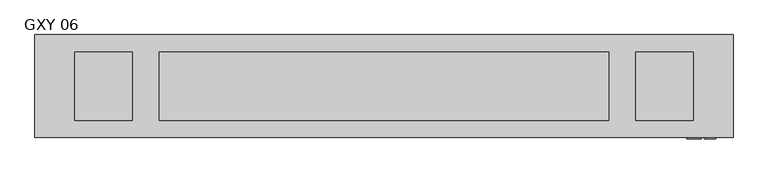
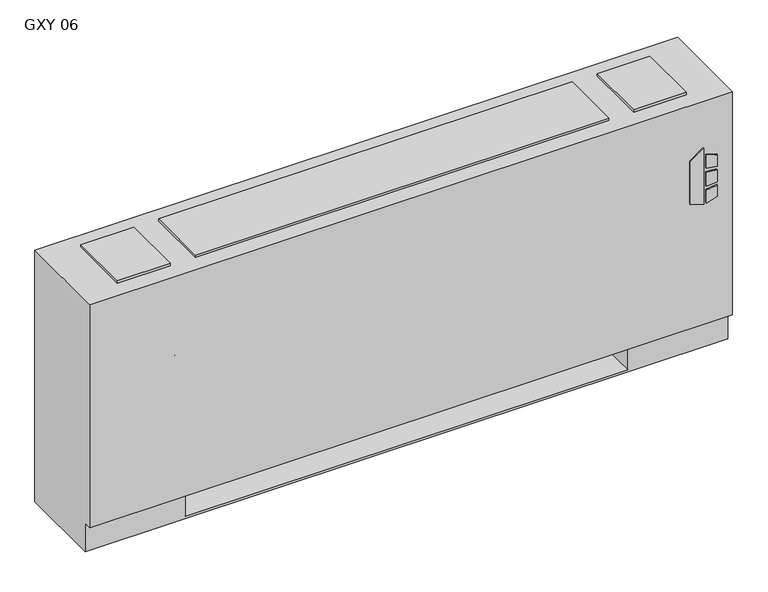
"""IFC4 building model written with IfcOpenShell, lengths in millimetres: proxy geometry, Vertical_Fan_Coil_Unit_-_GXY_-_IEC_-_2-Pipe_TS-FR_LH_2022 : GXY 06."""

from ifc_helpers import new_model, si_unit, point, frame, frame_2d, origin, place, context, project, spatial, polyline, circle_curve, trimmed, segment, composite_curve, outline, extrude, source, transform, mapped, element, save
from ifc_brep_helpers import plane_surface, revolved_surface, advanced_brep


def gxy_06_0ddcebba(model_context):
    return source(origin(), model_context, "Body", "SolidModel", [
        extrude(outline(polyline([(391.6086829, 823.9868862), (381.6606126, 856.1602728), (523.831537, 856.1602728), (500.8095309, 823.9868862), (391.6086829, 823.9868862)])), frame((0.0, 12.7, 0.0), z_axis=(0.0, 1.0, 0.0), x_axis=(0.0, 0.0, 1.0)), (0.0, 0.0, 1.0), 3.175),
        extrude(outline(polyline([(470.6079683, 862.9186058), (467.4055757, 889.0), (496.6344168, 889.0), (504.6988318, 862.9186058), (470.6079683, 862.9186058)])), frame((0.0, 12.7, 0.0), z_axis=(0.0, 1.0, 0.0), x_axis=(0.0, 0.0, 1.0)), (0.0, 0.0, 1.0), 3.175),
        extrude(outline(polyline([(418.7444414, 889.0), (415.0789404, 862.9186058), (381.6606126, 862.9186058), (390.2948498, 889.0), (418.7444414, 889.0)])), frame((0.0, 12.7, 0.0), z_axis=(0.0, 1.0, 0.0), x_axis=(0.0, 0.0, 1.0)), (0.0, 0.0, 1.0), 3.175),
        extrude(outline(polyline([(458.0596028, 889.0), (460.3414292, 862.9186058), (424.4038806, 862.9186058), (427.1451456, 889.0), (458.0596028, 889.0)])), frame((0.0, 12.7, 0.0), z_axis=(0.0, 1.0, 0.0), x_axis=(0.0, 0.0, 1.0)), (0.0, 0.0, 1.0), 3.175),
        extrude(outline(polyline([(685.8, 81.534), (685.8, 223.266), (806.45, 223.266), (806.45, 81.534), (685.8, 81.534)])), frame((0.0, 0.0, 327.025), z_axis=(0.0, 0.0, 1.0), x_axis=(1.0, 0.0, 0.0)), (0.0, 0.0, 1.0), 260.35),
        extrude(outline(polyline([(-406.4, 206.375), (-406.4, 53.975), (-533.4, 53.975), (-533.4, 206.375), (-406.4, 206.375)])), frame((0.0, 0.0, 641.35), z_axis=(0.0, 0.0, 1.0), x_axis=(1.0, 0.0, 0.0)), (0.0, 0.0, 1.0), 6.35),
        extrude(outline(polyline([(838.2, 206.375), (838.2, 53.975), (711.2, 53.975), (711.2, 206.375), (838.2, 206.375)])), frame((0.0, 0.0, 641.35), z_axis=(0.0, 0.0, 1.0), x_axis=(1.0, 0.0, 0.0)), (0.0, 0.0, 1.0), 6.35),
        extrude(outline(composite_curve([segment(trimmed(circle_curve(frame_2d((78.9432, 398.5514)), 7.9375), [point((78.9432, 406.4889))], [point((78.9432, 390.6139))], False, "CARTESIAN"), True, "CONTINUOUS"), segment(trimmed(circle_curve(frame_2d((78.9432, 398.5514)), 7.9375), [point((78.9432, 390.6139))], [point((78.9432, 406.4889))], False, "CARTESIAN"), True, "CONTINUOUS")], self_intersect=False)), frame((-431.8, 0.0, 0.0), z_axis=(1.0, 0.0, 0.0), x_axis=(0.0, 1.0, 0.0)), (0.0, 0.0, 1.0), 50.8),
        extrude(outline(composite_curve([segment(trimmed(circle_curve(frame_2d((155.9052, 537.3878)), 7.9375), [point((155.9052, 545.3253))], [point((155.9052, 529.4503))], False, "CARTESIAN"), True, "CONTINUOUS"), segment(trimmed(circle_curve(frame_2d((155.9052, 537.3878)), 7.9375), [point((155.9052, 529.4503))], [point((155.9052, 545.3253))], False, "CARTESIAN"), True, "CONTINUOUS")], self_intersect=False)), frame((-431.8, 0.0, 0.0), z_axis=(1.0, 0.0, 0.0), x_axis=(0.0, 1.0, 0.0)), (0.0, 0.0, 1.0), 50.8),
        advanced_brep(
        [(927.1, 244.475, 641.35), (-622.3, 244.475, 641.35), (-622.3, 15.875, 641.35), (927.1, 15.875, 641.35), (-622.3, 244.475, 0.0), (927.1, 244.475, 0.0), (927.1, 34.925, 0.0), (-622.3, 34.925, 0.0), (685.8, 244.475, 73.025), (914.4, 244.475, 73.025), (914.4, 244.475, 628.65), (685.8, 244.475, 628.65), (685.8, 244.475, 418.0400565), (714.375, 244.475, 418.0400565), (714.375, 244.475, 388.4099435), (685.8, 244.475, 388.4099435), (685.8, 244.475, 290.5125), (714.375, 244.475, 290.5125), (714.375, 244.475, 261.9375), (685.8, 244.475, 261.9375), (685.8, 244.475, 119.0625), (714.375, 244.475, 119.0625), (714.375, 244.475, 90.4875), (685.8, 244.475, 90.4875), (-381.0, 244.475, 628.65), (-609.6, 244.475, 628.65), (-609.6, 244.475, 73.025), (-381.0, 244.475, 73.025), (-381.0, 244.475, 90.4875), (-409.575, 244.475, 90.4875), (-409.575, 244.475, 119.0625), (-381.0, 244.475, 119.0625), (-381.0, 244.475, 261.9375), (-409.575, 244.475, 261.9375), (-409.575, 244.475, 290.5125), (-381.0, 244.475, 290.5125), (-381.0, 244.475, 388.4099435), (-409.575, 244.475, 388.4099435), (-409.575, 244.475, 418.0400565), (-381.0, 244.475, 418.0400565), (704.0626, 244.475, 104.775), (692.9374, 244.475, 104.775), (704.0626, 244.475, 403.225), (692.9374, 244.475, 403.225), (704.0626, 244.475, 276.225), (692.9374, 244.475, 276.225), (-388.1374, 244.475, 104.775), (-399.2626, 244.475, 104.775), (-388.1374, 244.475, 276.225), (-399.2626, 244.475, 276.225), (-388.1374, 244.475, 403.225), (-399.2626, 244.475, 403.225), (-622.3, 34.925, 73.025), (-622.3, 15.875, 73.025), (927.1, 15.875, 73.025), (927.1, 34.925, 73.025), (-381.0, 34.925, 73.025), (-381.0, 219.075, 73.025), (685.8, 219.075, 73.025), (685.8, 34.925, 73.025), (685.8, 34.925, 6.35), (-381.0, 34.925, 6.35), (685.8, 41.275, 628.65), (914.4, 41.275, 628.65), (914.4, 41.275, 73.025), (685.8, 41.275, 73.025), (-381.0, 41.275, 628.65), (-381.0, 41.275, 73.025), (-609.6, 41.275, 73.025), (-609.6, 41.275, 628.65), (685.8, 219.075, 73.025), (685.8, 238.125, 90.4875), (685.8, 238.125, 119.0625), (685.8, 238.125, 261.9375), (685.8, 238.125, 290.5125), (685.8, 238.125, 388.4099435), (685.8, 238.125, 418.0400565), (-381.0, 219.075, 73.025), (-381.0, 238.125, 418.0400565), (-381.0, 238.125, 388.4099435), (-381.0, 238.125, 290.5125), (-381.0, 238.125, 261.9375), (-381.0, 238.125, 119.0625), (-381.0, 238.125, 90.4875), (-381.0, 219.075, 6.35), (685.8, 219.075, 6.35), (714.375, 238.125, 90.4875), (714.375, 238.125, 119.0625), (692.9374, 238.125, 104.775), (704.0626, 238.125, 104.775), (714.375, 238.125, 261.9375), (714.375, 238.125, 290.5125), (692.9374, 238.125, 276.225), (704.0626, 238.125, 276.225), (714.375, 238.125, 388.4099435), (714.375, 238.125, 418.0400565), (692.9374, 238.125, 403.225), (704.0626, 238.125, 403.225), (-409.575, 238.125, 119.0625), (-409.575, 238.125, 90.4875), (-399.2626, 238.125, 104.775), (-388.1374, 238.125, 104.775), (-409.575, 238.125, 290.5125), (-409.575, 238.125, 261.9375), (-399.2626, 238.125, 276.225), (-388.1374, 238.125, 276.225), (-409.575, 238.125, 418.0400565), (-409.575, 238.125, 388.4099435), (-399.2626, 238.125, 403.225), (-388.1374, 238.125, 403.225)],
        [
            (0, 1),
            (1, 2),
            (2, 3),
            (3, 0),
            (4, 5),
            (5, 6),
            (6, 7),
            (7, 4),
            (0, 5),
            (4, 1),
            (8, 9),
            (9, 10),
            (10, 11),
            (11, 12),
            (12, 13),
            (13, 14),
            (14, 15),
            (15, 16),
            (16, 17),
            (17, 18),
            (18, 19),
            (19, 20),
            (20, 21),
            (21, 22),
            (22, 23),
            (23, 8),
            (24, 25),
            (25, 26),
            (26, 27),
            (27, 28),
            (28, 29),
            (29, 30),
            (30, 31),
            (31, 32),
            (32, 33),
            (33, 34),
            (34, 35),
            (35, 36),
            (36, 37),
            (37, 38),
            (38, 39),
            (39, 24),
            (40, 41, circle_curve(frame((698.5, 244.475, 104.775), z_axis=(0.0, -1.0, 0.0), x_axis=(-1.0, 0.0, 0.0)), 5.5626)),
            (41, 40, circle_curve(frame((698.5, 244.475, 104.775), z_axis=(0.0, -1.0, 0.0), x_axis=(-1.0, 0.0, 0.0)), 5.5626)),
            (42, 43, circle_curve(frame((698.5, 244.475, 403.225), z_axis=(0.0, -1.0, 0.0), x_axis=(-1.0, 0.0, 0.0)), 5.5626)),
            (43, 42, circle_curve(frame((698.5, 244.475, 403.225), z_axis=(0.0, -1.0, 0.0), x_axis=(-1.0, 0.0, 0.0)), 5.5626)),
            (44, 45, circle_curve(frame((698.5, 244.475, 276.225), z_axis=(0.0, -1.0, 0.0), x_axis=(-1.0, 0.0, 0.0)), 5.5626)),
            (45, 44, circle_curve(frame((698.5, 244.475, 276.225), z_axis=(0.0, -1.0, 0.0), x_axis=(-1.0, 0.0, 0.0)), 5.5626)),
            (46, 47, circle_curve(frame((-393.7, 244.475, 104.775), z_axis=(0.0, -1.0, 0.0), x_axis=(-1.0, 0.0, 0.0)), 5.5626)),
            (47, 46, circle_curve(frame((-393.7, 244.475, 104.775), z_axis=(0.0, -1.0, 0.0), x_axis=(-1.0, 0.0, 0.0)), 5.5626)),
            (48, 49, circle_curve(frame((-393.7, 244.475, 276.225), z_axis=(0.0, -1.0, 0.0), x_axis=(-1.0, 0.0, 0.0)), 5.5626)),
            (49, 48, circle_curve(frame((-393.7, 244.475, 276.225), z_axis=(0.0, -1.0, 0.0), x_axis=(-1.0, 0.0, 0.0)), 5.5626)),
            (50, 51, circle_curve(frame((-393.7, 244.475, 403.225), z_axis=(0.0, -1.0, 0.0), x_axis=(-1.0, 0.0, 0.0)), 5.5626)),
            (51, 50, circle_curve(frame((-393.7, 244.475, 403.225), z_axis=(0.0, -1.0, 0.0), x_axis=(-1.0, 0.0, 0.0)), 5.5626)),
            (7, 52),
            (52, 53),
            (53, 2),
            (53, 54),
            (54, 3),
            (54, 55),
            (55, 6),
            (52, 56),
            (56, 57),
            (57, 58),
            (58, 59),
            (59, 55),
            (59, 60),
            (60, 61),
            (61, 56),
            (62, 63),
            (63, 64),
            (64, 65),
            (65, 62),
            (66, 67),
            (67, 68),
            (68, 69),
            (69, 66),
            (65, 70),
            (70, 8),
            (23, 71),
            (71, 72),
            (72, 20),
            (19, 73),
            (73, 74),
            (74, 16),
            (15, 75),
            (75, 76),
            (76, 12),
            (11, 62),
            (64, 9),
            (63, 10),
            (69, 25),
            (24, 66),
            (68, 26),
            (67, 77),
            (77, 27),
            (39, 78),
            (78, 79),
            (79, 36),
            (35, 80),
            (80, 81),
            (81, 32),
            (31, 82),
            (82, 83),
            (83, 28),
            (57, 84),
            (84, 85),
            (85, 58),
            (85, 60),
            (84, 61),
            (71, 86),
            (86, 87),
            (87, 72),
            (88, 89, circle_curve(frame((698.5, 238.125, 104.775), z_axis=(0.0, 1.0, 0.0), x_axis=(-1.0, 0.0, 0.0)), 5.5626)),
            (89, 88, circle_curve(frame((698.5, 238.125, 104.775), z_axis=(0.0, 1.0, 0.0), x_axis=(-1.0, 0.0, 0.0)), 5.5626)),
            (73, 90),
            (90, 91),
            (91, 74),
            (92, 93, circle_curve(frame((698.5, 238.125, 276.225), z_axis=(0.0, 1.0, 0.0), x_axis=(-1.0, 0.0, 0.0)), 5.5626)),
            (93, 92, circle_curve(frame((698.5, 238.125, 276.225), z_axis=(0.0, 1.0, 0.0), x_axis=(-1.0, 0.0, 0.0)), 5.5626)),
            (75, 94),
            (94, 95),
            (95, 76),
            (96, 97, circle_curve(frame((698.5, 238.125, 403.225), z_axis=(0.0, 1.0, 0.0), x_axis=(-1.0, 0.0, 0.0)), 5.5626)),
            (97, 96, circle_curve(frame((698.5, 238.125, 403.225), z_axis=(0.0, 1.0, 0.0), x_axis=(-1.0, 0.0, 0.0)), 5.5626)),
            (98, 99),
            (99, 83),
            (82, 98),
            (100, 101, circle_curve(frame((-393.7, 238.125, 104.775), z_axis=(0.0, 1.0, 0.0), x_axis=(-1.0, 0.0, 0.0)), 5.5626)),
            (101, 100, circle_curve(frame((-393.7, 238.125, 104.775), z_axis=(0.0, 1.0, 0.0), x_axis=(-1.0, 0.0, 0.0)), 5.5626)),
            (102, 103),
            (103, 81),
            (80, 102),
            (104, 105, circle_curve(frame((-393.7, 238.125, 276.225), z_axis=(0.0, 1.0, 0.0), x_axis=(-1.0, 0.0, 0.0)), 5.5626)),
            (105, 104, circle_curve(frame((-393.7, 238.125, 276.225), z_axis=(0.0, 1.0, 0.0), x_axis=(-1.0, 0.0, 0.0)), 5.5626)),
            (106, 107),
            (107, 79),
            (78, 106),
            (108, 109, circle_curve(frame((-393.7, 238.125, 403.225), z_axis=(0.0, 1.0, 0.0), x_axis=(-1.0, 0.0, 0.0)), 5.5626)),
            (109, 108, circle_curve(frame((-393.7, 238.125, 403.225), z_axis=(0.0, 1.0, 0.0), x_axis=(-1.0, 0.0, 0.0)), 5.5626)),
            (87, 21),
            (86, 22),
            (91, 17),
            (90, 18),
            (95, 13),
            (94, 14),
            (30, 98),
            (99, 29),
            (34, 102),
            (103, 33),
            (38, 106),
            (107, 37),
            (88, 41),
            (40, 89),
            (96, 43),
            (42, 97),
            (92, 45),
            (44, 93),
            (100, 47),
            (46, 101),
            (104, 49),
            (48, 105),
            (108, 51),
            (50, 109),
        ],
        [
            plane_surface(frame((-622.3, 244.475, 641.35), z_axis=(0.0, 0.0, 1.0), x_axis=(-1.0, 0.0, 0.0))),
            plane_surface(frame((-622.3, 244.475, 0.0), z_axis=(0.0, 0.0, -1.0), x_axis=(1.0, 0.0, 0.0))),
            plane_surface(frame((927.1, 244.475, 641.35), z_axis=(0.0, 1.0, 0.0), x_axis=(0.0, 0.0, -1.0))),
            plane_surface(frame((-622.3, 244.475, 641.35), z_axis=(-1.0, 0.0, 0.0), x_axis=(0.0, 0.0, -1.0))),
            plane_surface(frame((-622.3, 15.875, 641.35), z_axis=(0.0, -1.0, 0.0), x_axis=(0.0, 0.0, -1.0))),
            plane_surface(frame((927.1, 15.875, 641.35), z_axis=(1.0, 0.0, 0.0), x_axis=(0.0, 0.0, -1.0))),
            plane_surface(frame((-622.3, 15.875, 73.025), z_axis=(0.0, 0.0, -1.0), x_axis=(1.0, 0.0, 0.0))),
            plane_surface(frame((-622.3, 34.925, 73.025), z_axis=(0.0, -1.0, 0.0), x_axis=(1.0, 0.0, 0.0))),
            plane_surface(frame((685.8, 41.275, 628.65), z_axis=(0.0, 1.0, 0.0), x_axis=(0.0, 0.0, -1.0))),
            plane_surface(frame((685.8, 41.275, 628.65), z_axis=(1.0, 0.0, 0.0), x_axis=(0.0, 1.0, 0.0))),
            plane_surface(frame((685.8, 41.275, 73.025), z_axis=(0.0, 0.0, 1.0), x_axis=(0.0, 1.0, 0.0))),
            plane_surface(frame((914.4, 41.275, 73.025), z_axis=(-1.0, 0.0, 0.0), x_axis=(0.0, 1.0, 0.0))),
            plane_surface(frame((914.4, 41.275, 628.65), z_axis=(0.0, 0.0, -1.0), x_axis=(0.0, 1.0, 0.0))),
            plane_surface(frame((-381.0, 41.275, 628.65), z_axis=(0.0, 0.0, -1.0), x_axis=(0.0, 1.0, 0.0))),
            plane_surface(frame((-609.6, 41.275, 628.65), z_axis=(1.0, 0.0, 0.0), x_axis=(0.0, 1.0, 0.0))),
            plane_surface(frame((-609.6, 41.275, 73.025), z_axis=(0.0, 0.0, 1.0), x_axis=(0.0, 1.0, 0.0))),
            plane_surface(frame((-381.0, 41.275, 73.025), z_axis=(-1.0, 0.0, 0.0), x_axis=(0.0, 1.0, 0.0))),
            plane_surface(frame((685.8, 219.075, 73.025), z_axis=(0.0, -1.0, 0.0), x_axis=(0.0, 0.0, -1.0))),
            plane_surface(frame((685.8, 219.075, 73.025), z_axis=(-1.0, 0.0, 0.0), x_axis=(0.0, -1.0, 0.0))),
            plane_surface(frame((685.8, 219.075, 6.35), z_axis=(0.0, 0.0, 1.0), x_axis=(0.0, -1.0, 0.0))),
            plane_surface(frame((-381.0, 219.075, 6.35), z_axis=(1.0, 0.0, 0.0), x_axis=(0.0, -1.0, 0.0))),
            plane_surface(frame((714.375, 238.125, 119.0625), z_axis=(0.0, -1.0, 0.0), x_axis=(-1.0, 0.0, 0.0))),
            plane_surface(frame((685.8, 244.475, 119.0625), z_axis=(0.0, 0.0, 1.0), x_axis=(0.0, -1.0, 0.0))),
            plane_surface(frame((714.375, 244.475, 119.0625), z_axis=(1.0, 0.0, 0.0), x_axis=(0.0, -1.0, 0.0))),
            plane_surface(frame((714.375, 244.475, 90.4875), z_axis=(0.0, 0.0, -1.0), x_axis=(0.0, -1.0, 0.0))),
            plane_surface(frame((685.8, 244.475, 290.5125), z_axis=(0.0, 0.0, 1.0), x_axis=(0.0, -1.0, 0.0))),
            plane_surface(frame((714.375, 244.475, 290.5125), z_axis=(1.0, 0.0, 0.0), x_axis=(0.0, -1.0, 0.0))),
            plane_surface(frame((714.375, 244.475, 261.9375), z_axis=(0.0, 0.0, -1.0), x_axis=(0.0, -1.0, 0.0))),
            plane_surface(frame((685.8, 244.475, 418.0400565), z_axis=(0.0, 0.0, 1.0), x_axis=(0.0, -1.0, 0.0))),
            plane_surface(frame((714.375, 244.475, 418.0400565), z_axis=(1.0, 0.0, 0.0), x_axis=(0.0, -1.0, 0.0))),
            plane_surface(frame((714.375, 244.475, 388.4099435), z_axis=(0.0, 0.0, -1.0), x_axis=(0.0, -1.0, 0.0))),
            plane_surface(frame((-409.575, 244.475, 119.0625), z_axis=(0.0, 0.0, 1.0), x_axis=(0.0, -1.0, 0.0))),
            plane_surface(frame((-381.0, 244.475, 90.4875), z_axis=(0.0, 0.0, -1.0), x_axis=(0.0, -1.0, 0.0))),
            plane_surface(frame((-409.575, 244.475, 90.4875), z_axis=(-1.0, 0.0, 0.0), x_axis=(0.0, -1.0, 0.0))),
            plane_surface(frame((-409.575, 244.475, 290.5125), z_axis=(0.0, 0.0, 1.0), x_axis=(0.0, -1.0, 0.0))),
            plane_surface(frame((-381.0, 244.475, 261.9375), z_axis=(0.0, 0.0, -1.0), x_axis=(0.0, -1.0, 0.0))),
            plane_surface(frame((-409.575, 244.475, 261.9375), z_axis=(-1.0, 0.0, 0.0), x_axis=(0.0, -1.0, 0.0))),
            plane_surface(frame((-409.575, 244.475, 418.0400565), z_axis=(0.0, 0.0, 1.0), x_axis=(0.0, -1.0, 0.0))),
            plane_surface(frame((-381.0, 244.475, 388.4099435), z_axis=(0.0, 0.0, -1.0), x_axis=(0.0, -1.0, 0.0))),
            plane_surface(frame((-409.575, 244.475, 388.4099435), z_axis=(-1.0, 0.0, 0.0), x_axis=(0.0, -1.0, 0.0))),
            revolved_surface(polyline([(692.9374, 238.125, 104.775), (692.9374, 244.475, 104.775)]), (698.5, 244.475, 104.775), (0.0, -1.0, 0.0)),
            revolved_surface(polyline([(692.9374, 238.125, 403.225), (692.9374, 244.475, 403.225)]), (698.5, 244.475, 403.225), (0.0, -1.0, 0.0)),
            revolved_surface(polyline([(692.9374, 238.125, 276.225), (692.9374, 244.475, 276.225)]), (698.5, 244.475, 276.225), (0.0, -1.0, 0.0)),
            revolved_surface(polyline([(-399.26259999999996, 238.125, 104.775), (-399.26259999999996, 244.475, 104.775)]), (-393.7, 244.475, 104.775), (0.0, -1.0, 0.0)),
            revolved_surface(polyline([(-399.26259999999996, 238.125, 276.225), (-399.26259999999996, 244.475, 276.225)]), (-393.7, 244.475, 276.225), (0.0, -1.0, 0.0)),
            revolved_surface(polyline([(-399.26259999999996, 238.125, 403.225), (-399.26259999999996, 244.475, 403.225)]), (-393.7, 244.475, 403.225), (0.0, -1.0, 0.0)),
        ],
        [
            (0, [[1, 2, 3, 4]]),
            (1, [[5, 6, 7, 8]]),
            (2, [[-1, 9, -5, 10], [11, 12, 13, 14, 15, 16, 17, 18, 19, 20, 21, 22, 23, 24, 25, 26], [27, 28, 29, 30, 31, 32, 33, 34, 35, 36, 37, 38, 39, 40, 41, 42], [43, 44], [45, 46], [47, 48], [49, 50], [51, 52], [53, 54]]),
            (3, [[-2, -10, -8, 55, 56, 57]]),
            (4, [[-3, -57, 58, 59]]),
            (5, [[-4, -59, 60, 61, -6, -9]]),
            (6, [[-56, 62, 63, 64, 65, 66, -60, -58]]),
            (7, [[-7, -61, -66, 67, 68, 69, -62, -55]]),
            (8, [[70, 71, 72, 73]]),
            (8, [[74, 75, 76, 77]]),
            (9, [[-73, 78, 79, -26, 80, 81, 82, -22, 83, 84, 85, -18, 86, 87, 88, -14, 89]]),
            (10, [[-72, 90, -11, -79, -78]]),
            (11, [[-71, 91, -12, -90]]),
            (12, [[-70, -89, -13, -91]]),
            (13, [[-77, 92, -27, 93]]),
            (14, [[-76, 94, -28, -92]]),
            (15, [[-75, 95, 96, -29, -94]]),
            (16, [[-74, -93, -42, 97, 98, 99, -38, 100, 101, 102, -34, 103, 104, 105, -30, -96, -95]]),
            (17, [[-64, 106, 107, 108]]),
            (18, [[-108, 109, -67, -65]]),
            (19, [[-107, 110, -68, -109]]),
            (20, [[-106, -63, -69, -110]]),
            (21, [[111, 112, 113, -81], [114, 115]]),
            (21, [[116, 117, 118, -84], [119, 120]]),
            (21, [[121, 122, 123, -87], [124, 125]]),
            (21, [[126, 127, -104, 128], [129, 130]]),
            (21, [[131, 132, -101, 133], [134, 135]]),
            (21, [[136, 137, -98, 138], [139, 140]]),
            (22, [[-113, 141, -23, -82]]),
            (23, [[-112, 142, -24, -141]]),
            (24, [[-111, -80, -25, -142]]),
            (25, [[-118, 143, -19, -85]]),
            (26, [[-117, 144, -20, -143]]),
            (27, [[-116, -83, -21, -144]]),
            (28, [[-123, 145, -15, -88]]),
            (29, [[-122, 146, -16, -145]]),
            (30, [[-121, -86, -17, -146]]),
            (31, [[-128, -103, -33, 147]]),
            (32, [[-127, 148, -31, -105]]),
            (33, [[-126, -147, -32, -148]]),
            (34, [[-133, -100, -37, 149]]),
            (35, [[-132, 150, -35, -102]]),
            (36, [[-131, -149, -36, -150]]),
            (37, [[-138, -97, -41, 151]]),
            (38, [[-137, 152, -39, -99]]),
            (39, [[-136, -151, -40, -152]]),
            (40, [[153, -43, 154, -114]]),
            (40, [[-153, -115, -154, -44]]),
            (41, [[155, -45, 156, -124]]),
            (41, [[-155, -125, -156, -46]]),
            (42, [[157, -47, 158, -119]]),
            (42, [[-157, -120, -158, -48]]),
            (43, [[159, -49, 160, -129]]),
            (43, [[-159, -130, -160, -50]]),
            (44, [[161, -51, 162, -134]]),
            (44, [[-161, -135, -162, -52]]),
            (45, [[163, -53, 164, -139]]),
            (45, [[-163, -140, -164, -54]]),
        ],
    ),
        extrude(outline(polyline([(650.875, 206.375), (650.875, 53.975), (-346.075, 53.975), (-346.075, 206.375), (650.875, 206.375)])), frame((0.0, 0.0, 641.35), z_axis=(0.0, 0.0, 1.0), x_axis=(1.0, 0.0, 0.0)), (0.0, 0.0, 1.0), 6.35),
    ])


if __name__ == "__main__":
    model = new_model("IFC4")
    model_context = context("Model", 3, world=origin())
    ifc_project = project(units=[si_unit("LENGTHUNIT", "METRE", prefix="MILLI")], contexts=[model_context])
    site = spatial("IfcSite", under=ifc_project)
    building = spatial("IfcBuilding", under=site)
    placement = place(None, origin())
    gxy_06_shape = gxy_06_0ddcebba(model_context)
    element("IfcBuildingElementProxy", 1, Name="Vertical_Fan_Coil_Unit_-_GXY_-_IEC_-_2-Pipe_TS-FR_LH_2022 : GXY 06", ObjectType="Vertical_Fan_Coil_Unit_-_GXY_-_IEC_-_2-Pipe_TS-FR_LH_2022 : GXY 06", at=placement, inside=building, context=model_context, shape_type="MappedRepresentation", body=[
        mapped(gxy_06_shape, transform((0.0, 0.0, 0.0), x_axis=(1.0, 0.0, 0.0), y_axis=(0.0, 1.0, 0.0), z_axis=(0.0, 0.0, 1.0))),
    ])
    save(model, "model.ifc")
